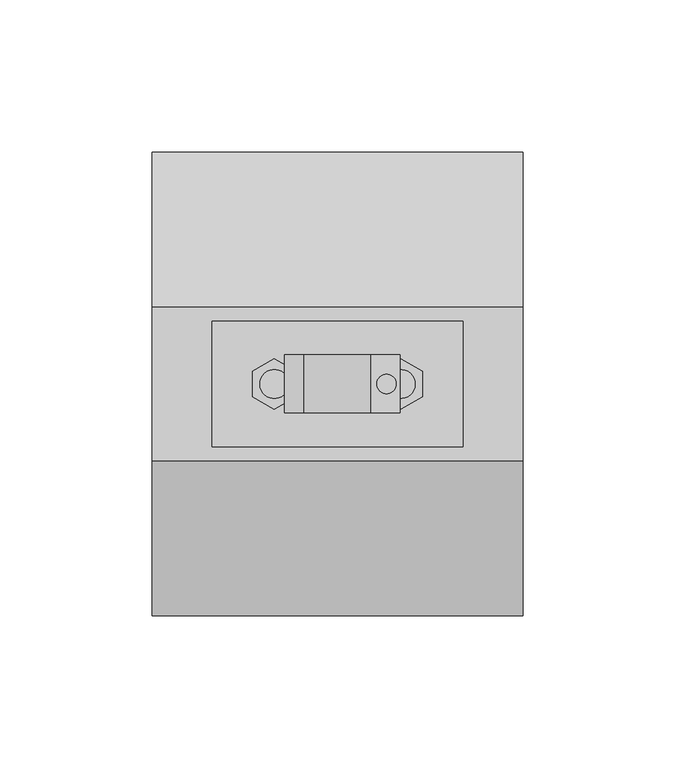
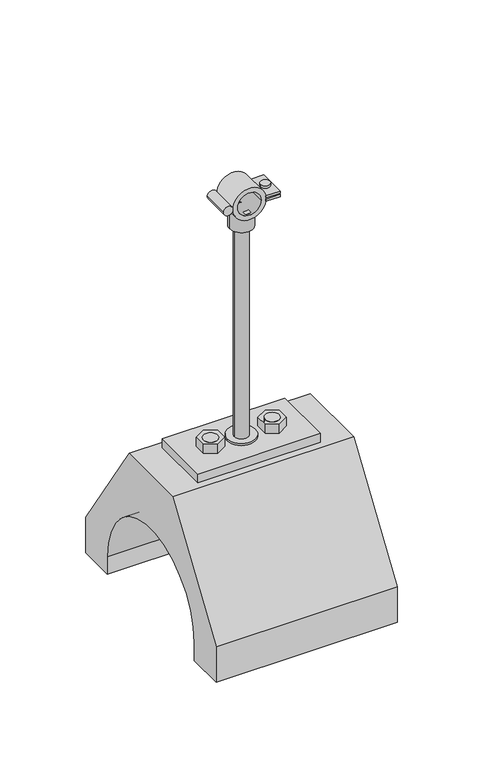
"""IFC4 building model written with IfcOpenShell, lengths in millimetres: cable carrier fitting geometry, eV_SU_Eaton_Dura-Blok_DBM : eV_SU_Eaton_Dura-Blok_DBM_Copper."""

from ifc_helpers import new_model, si_unit, point, frame, frame_2d, origin, place, context, project, spatial, polyline, circle_curve, trimmed, segment, composite_curve, outline, extrude, source, transform, mapped, element, save


def cable_carrier_fitting_e1969057(model_context):
    return source(origin(), model_context, "Body", "SweptSolid", [
        extrude(outline(composite_curve([segment(trimmed(circle_curve(frame_2d((61.0, 0.0)), 7.9375), [point((53.0625, 0.0))], [point((68.9375, 0.0))], False, "CARTESIAN"), True, "CONTINUOUS"), segment(trimmed(circle_curve(frame_2d((61.0, 0.0)), 7.9375), [point((68.9375, 0.0))], [point((53.0625, 0.0))], False, "CARTESIAN"), True, "CONTINUOUS")], self_intersect=False), holes=[composite_curve([segment(trimmed(circle_curve(frame_2d((61.0, 0.0)), 4.7625), [point((56.2375, 0.0))], [point((65.7625, 0.0))], True, "CARTESIAN"), True, "CONTINUOUS"), segment(trimmed(circle_curve(frame_2d((61.0, 0.0)), 4.7625), [point((65.7625, 0.0))], [point((56.2375, 0.0))], True, "CARTESIAN"), True, "CONTINUOUS")], self_intersect=False)]), frame((0.0, 0.0, 258.7586337), z_axis=(0.0, 0.0, 1.0), x_axis=(1.0, 0.0, 0.0)), (0.0, 0.0, 1.0), 12.7),
        extrude(outline(composite_curve([segment(trimmed(circle_curve(frame_2d((279.3961337, 46.7125)), 3.175), [point((279.3961337, 43.5375))], [point((279.3961337, 49.8875))], False, "CARTESIAN"), True, "CONTINUOUS"), segment(trimmed(circle_curve(frame_2d((279.3961337, 46.7125)), 3.175), [point((279.3961337, 49.8875))], [point((279.3961337, 43.5375))], False, "CARTESIAN"), True, "CONTINUOUS")], self_intersect=False)), frame((0.0, -9.525, 0.0), z_axis=(0.0, 1.0, 0.0), x_axis=(0.0, 0.0, 1.0)), (0.0, 0.0, 1.0), 19.05),
        extrude(outline(composite_curve([segment(trimmed(circle_curve(frame_2d((77.1505182, 0.0)), 3.175), [point((73.9755182, 0.0))], [point((80.3255182, 0.0))], False, "CARTESIAN"), True, "CONTINUOUS"), segment(trimmed(circle_curve(frame_2d((77.1505182, 0.0)), 3.175), [point((80.3255182, 0.0))], [point((73.9755182, 0.0))], False, "CARTESIAN"), True, "CONTINUOUS")], self_intersect=False)), frame((0.0, 0.0, 281.3805087), z_axis=(0.0, 0.0, 1.0), x_axis=(1.0, 0.0, 0.0)), (0.0, 0.0, 1.0), 1.7743168),
        extrude(outline(composite_curve([segment(trimmed(circle_curve(frame_2d((77.1505182, 0.0)), 1.5875), [point((75.5630182, 0.0))], [point((78.7380182, 0.0))], False, "CARTESIAN"), True, "CONTINUOUS"), segment(trimmed(circle_curve(frame_2d((77.1505182, 0.0)), 1.5875), [point((78.7380182, 0.0))], [point((75.5630182, 0.0))], False, "CARTESIAN"), True, "CONTINUOUS")], self_intersect=False)), frame((0.0, 0.0, 275.1570402), z_axis=(0.0, 0.0, 1.0), x_axis=(1.0, 0.0, 0.0)), (0.0, 0.0, 1.0), 6.2234685),
        extrude(outline(composite_curve([segment(polyline([(281.3805087, 81.6375), (281.3805087, 71.9879883)]), True, "CONTINUOUS"), segment(trimmed(circle_curve(frame_2d((279.3961337, 61.0)), 11.1657347), [point((281.3805087, 71.9879883))], [point((279.7930087, 72.1586792))], True, "CARTESIAN"), True, "CONTINUOUS"), segment(polyline([(279.7930087, 72.1586792), (279.7930087, 81.6375), (281.3805087, 81.6375)]), True, "CONTINUOUS")], self_intersect=False)), frame((0.0, -9.525, 0.0), z_axis=(0.0, 1.0, 0.0), x_axis=(0.0, 0.0, 1.0)), (0.0, 0.0, 1.0), 19.05),
        extrude(outline(composite_curve([segment(polyline([(277.4117587, 71.9879883), (277.4117587, 81.6375), (278.9992587, 81.6375), (278.9992587, 72.1586792)]), True, "CONTINUOUS"), segment(trimmed(circle_curve(frame_2d((279.3961337, 61.0)), 11.1657347), [point((278.9992587, 72.1586792))], [point((277.4117587, 71.9879883))], True, "CARTESIAN"), True, "CONTINUOUS")], self_intersect=False)), frame((0.0, -9.525, 0.0), z_axis=(0.0, 1.0, 0.0), x_axis=(0.0, 0.0, 1.0)), (0.0, 0.0, 1.0), 19.05),
        extrude(outline(composite_curve([segment(trimmed(circle_curve(frame_2d((279.3961337, 61.0)), 11.1125), [point((279.3961337, 49.8875))], [point((279.3961337, 72.1125))], False, "CARTESIAN"), True, "CONTINUOUS"), segment(trimmed(circle_curve(frame_2d((279.3961337, 61.0)), 11.1125), [point((279.3961337, 72.1125))], [point((279.3961337, 49.8875))], False, "CARTESIAN"), True, "CONTINUOUS")], self_intersect=False), holes=[composite_curve([segment(trimmed(circle_curve(frame_2d((279.3961337, 61.0)), 7.9375), [point((279.3961337, 53.0625))], [point((279.3961337, 68.9375))], True, "CARTESIAN"), True, "CONTINUOUS"), segment(trimmed(circle_curve(frame_2d((279.3961337, 61.0)), 7.9375), [point((279.3961337, 68.9375))], [point((279.3961337, 53.0625))], True, "CARTESIAN"), True, "CONTINUOUS")], self_intersect=False)]), frame((0.0, -9.525, 0.0), z_axis=(0.0, 1.0, 0.0), x_axis=(0.0, 0.0, 1.0)), (0.0, 0.0, 1.0), 19.05),
        extrude(outline(composite_curve([segment(trimmed(circle_curve(frame_2d((61.0, 0.0)), 4.7625), [point((65.7625, 0.0))], [point((56.2375, 0.0))], False, "CARTESIAN"), True, "CONTINUOUS"), segment(trimmed(circle_curve(frame_2d((61.0, 0.0)), 4.7625), [point((56.2375, 0.0))], [point((65.7625, 0.0))], False, "CARTESIAN"), True, "CONTINUOUS")], self_intersect=False)), frame((0.0, 0.0, 99.9845659), z_axis=(0.0, 0.0, 1.0), x_axis=(1.0, 0.0, 0.0)), (0.0, 0.0, 1.0), 168.3029341),
        extrude(outline(composite_curve([segment(trimmed(circle_curve(frame_2d((61.0, 0.0)), 9.525), [point((51.475, 0.0))], [point((70.525, 0.0))], False, "CARTESIAN"), True, "CONTINUOUS"), segment(trimmed(circle_curve(frame_2d((61.0, 0.0)), 9.525), [point((70.525, 0.0))], [point((51.475, 0.0))], False, "CARTESIAN"), True, "CONTINUOUS")], self_intersect=False), holes=[composite_curve([segment(trimmed(circle_curve(frame_2d((61.0, 0.0)), 4.7625), [point((56.2375, 0.0))], [point((65.7625, 0.0))], True, "CARTESIAN"), True, "CONTINUOUS"), segment(trimmed(circle_curve(frame_2d((61.0, 0.0)), 4.7625), [point((65.7625, 0.0))], [point((56.2375, 0.0))], True, "CARTESIAN"), True, "CONTINUOUS")], self_intersect=False)]), frame((0.0, 0.0, 108.0838156), z_axis=(0.0, 0.0, 1.0), x_axis=(1.0, 0.0, 0.0)), (0.0, 0.0, 1.0), 1.5875),
        extrude(outline(composite_curve([segment(trimmed(circle_curve(frame_2d((81.7712367, 0.0)), 4.7625), [point((86.5337367, 0.0))], [point((77.0087367, 0.0))], False, "CARTESIAN"), True, "CONTINUOUS"), segment(trimmed(circle_curve(frame_2d((81.7712367, 0.0)), 4.7625), [point((77.0087367, 0.0))], [point((86.5337367, 0.0))], False, "CARTESIAN"), True, "CONTINUOUS")], self_intersect=False)), frame((0.0, 0.0, 76.3338156), z_axis=(0.0, 0.0, 1.0), x_axis=(1.0, 0.0, 0.0)), (0.0, 0.0, 1.0), 38.1),
        extrude(outline(polyline([(74.6274867, -4.124446), (74.6274867, 4.124446), (81.7712367, 8.248892), (88.9149867, 4.124446), (88.9149867, -4.124446), (81.7712367, -8.248892), (74.6274867, -4.124446)])), frame((0.0, 0.0, 108.0838156), z_axis=(0.0, 0.0, 1.0), x_axis=(1.0, 0.0, 0.0)), (0.0, 0.0, 1.0), 6.35),
        extrude(outline(composite_curve([segment(trimmed(circle_curve(frame_2d((40.2287633, 0.0)), 4.7625), [point((35.4662633, 0.0))], [point((44.9912633, 0.0))], False, "CARTESIAN"), True, "CONTINUOUS"), segment(trimmed(circle_curve(frame_2d((40.2287633, 0.0)), 4.7625), [point((44.9912633, 0.0))], [point((35.4662633, 0.0))], False, "CARTESIAN"), True, "CONTINUOUS")], self_intersect=False)), frame((0.0, 0.0, 76.3338156), z_axis=(0.0, 0.0, 1.0), x_axis=(1.0, 0.0, 0.0)), (0.0, 0.0, 1.0), 38.1),
        extrude(outline(polyline([(47.3725133, 4.124446), (47.3725133, -4.124446), (40.2287633, -8.248892), (33.0850133, -4.124446), (33.0850133, 4.124446), (40.2287633, 8.248892), (47.3725133, 4.124446)])), frame((0.0, 0.0, 108.0838156), z_axis=(0.0, 0.0, 1.0), x_axis=(1.0, 0.0, 0.0)), (0.0, 0.0, 1.0), 6.35),
        extrude(outline(polyline([(19.725, -20.6375), (19.725, 20.6375), (102.275, 20.6375), (102.275, -20.6375), (19.725, -20.6375)]), holes=[composite_curve([segment(trimmed(circle_curve(frame_2d((81.7712367, 0.0)), 7.14375), [point((74.6274867, 0.0))], [point((88.9149867, 0.0))], True, "CARTESIAN"), True, "CONTINUOUS"), segment(trimmed(circle_curve(frame_2d((81.7712367, 0.0)), 7.14375), [point((88.9149867, 0.0))], [point((74.6274867, 0.0))], True, "CARTESIAN"), True, "CONTINUOUS")], self_intersect=False), composite_curve([segment(trimmed(circle_curve(frame_2d((40.2287633, 0.0)), 7.14375), [point((33.0850133, 0.0))], [point((47.3725133, 0.0))], True, "CARTESIAN"), True, "CONTINUOUS"), segment(trimmed(circle_curve(frame_2d((40.2287633, 0.0)), 7.14375), [point((47.3725133, 0.0))], [point((33.0850133, 0.0))], True, "CARTESIAN"), True, "CONTINUOUS")], self_intersect=False)]), frame((0.0, 0.0, 101.7338156), z_axis=(0.0, 0.0, 1.0), x_axis=(1.0, 0.0, 0.0)), (0.0, 0.0, 1.0), 6.35),
        extrude(outline(composite_curve([segment(polyline([(-25.4, 101.7338156), (25.4, 101.7338156), (76.2, 25.5338156), (76.2, 0.1338156), (50.8, 0.1338156), (50.8, 12.8338156)]), True, "CONTINUOUS"), segment(trimmed(circle_curve(frame_2d((0.0, 12.8338156)), 50.8), [point((50.8, 12.8338156))], [point((-50.8, 12.8338156))], True, "CARTESIAN"), True, "CONTINUOUS"), segment(polyline([(-50.8, 12.8338156), (-50.8, 0.1338156), (-76.2, 0.1338156), (-76.2, 25.5338156), (-25.4, 101.7338156)]), True, "CONTINUOUS")], self_intersect=False)), frame((0.0, 0.0, 0.0), z_axis=(1.0, 0.0, 0.0), x_axis=(0.0, 1.0, 0.0)), (0.0, 0.0, 1.0), 122.0),
    ])


if __name__ == "__main__":
    model = new_model("IFC4")
    model_context = context("Model", 3, world=origin())
    ifc_project = project(units=[si_unit("LENGTHUNIT", "METRE", prefix="MILLI")], contexts=[model_context])
    site = spatial("IfcSite", under=ifc_project)
    building = spatial("IfcBuilding", under=site)
    placement = place(None, origin())
    cable_carrier_fitting_shape = cable_carrier_fitting_e1969057(model_context)
    element("IfcCableCarrierFitting", 1, ObjectType="eV_SU_Eaton_Dura-Blok_DBM : eV_SU_Eaton_Dura-Blok_DBM_Copper", at=placement, inside=building, context=model_context, shape_type="MappedRepresentation", body=[
        mapped(cable_carrier_fitting_shape, transform((0.0, 0.0, 0.0), x_axis=(1.0, 0.0, 0.0), y_axis=(0.0, 1.0, 0.0), z_axis=(0.0, 0.0, 1.0))),
    ])
    save(model, "model.ifc")
